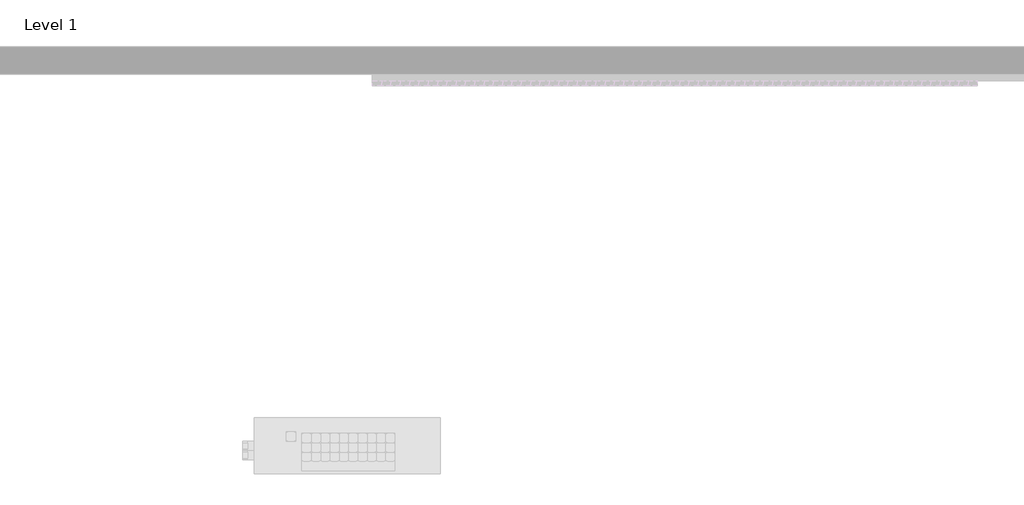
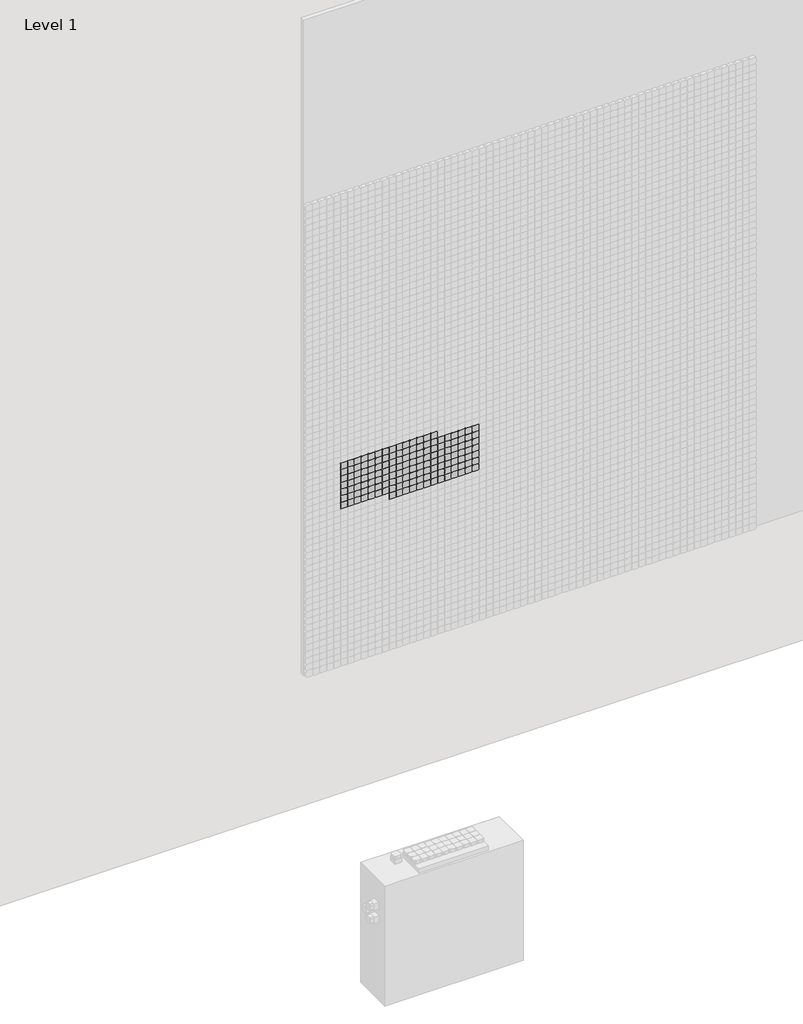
# One storey, part 17 of 71: 147 proxies.
"""IFC4 building model written with IfcOpenShell, lengths in millimetres."""

from ifc_helpers import new_model, si_unit, origin, place, context, project, spatial, transform, mapped, element, save
from components import generic_models_afde289c

model = new_model("IFC4")

# Units and contexts
model_context = context("Model", 3, world=origin())
ifc_project = project(units=[si_unit("LENGTHUNIT", "METRE", prefix="MILLI")], contexts=[model_context])

# Site, building, storey
site = spatial("IfcSite", under=ifc_project)
building = spatial("IfcBuilding", under=site)
storey = spatial("IfcBuildingStorey", under=building, Name="Level 1", Elevation=0.0)

# Proxies
placement = place(None, origin())
generic_models_shape = generic_models_afde289c(model_context)
element("IfcBuildingElementProxy", 1, Name="Pixel_M : Pixel_M", ObjectType="Pixel_M : Pixel_M", at=placement, inside=storey, context=model_context, shape_type="MappedRepresentation", body=[
    mapped(generic_models_shape, transform((5662.4280941, -75.0, 2516.3566215), x_axis=(1.0, 0.0, 0.0), y_axis=(0.0, 0.0, 1.0), z_axis=(0.0, -1.0, 0.0))),
])
element("IfcBuildingElementProxy", 2, Name="Pixel_M : Pixel_M", ObjectType="Pixel_M : Pixel_M", at=placement, inside=storey, context=model_context, shape_type="MappedRepresentation", body=[
    mapped(generic_models_shape, transform((5612.4280941, -75.0, 2516.3566215), x_axis=(1.0, 0.0, 0.0), y_axis=(0.0, 0.0, 1.0), z_axis=(0.0, -1.0, 0.0))),
])
element("IfcBuildingElementProxy", 3, Name="Pixel_M : Pixel_M", ObjectType="Pixel_M : Pixel_M", at=placement, inside=storey, context=model_context, shape_type="MappedRepresentation", body=[
    mapped(generic_models_shape, transform((5562.4280941, -75.0, 2516.3566215), x_axis=(1.0, 0.0, 0.0), y_axis=(0.0, 0.0, 1.0), z_axis=(0.0, -1.0, 0.0))),
])
element("IfcBuildingElementProxy", 4, Name="Pixel_M : Pixel_M", ObjectType="Pixel_M : Pixel_M", at=placement, inside=storey, context=model_context, shape_type="MappedRepresentation", body=[
    mapped(generic_models_shape, transform((5512.4280941, -75.0, 2516.3566215), x_axis=(1.0, 0.0, 0.0), y_axis=(0.0, 0.0, 1.0), z_axis=(0.0, -1.0, 0.0))),
])
element("IfcBuildingElementProxy", 5, Name="Pixel_M : Pixel_M", ObjectType="Pixel_M : Pixel_M", at=placement, inside=storey, context=model_context, shape_type="MappedRepresentation", body=[
    mapped(generic_models_shape, transform((5462.4280941, -75.0, 2516.3566215), x_axis=(1.0, 0.0, 0.0), y_axis=(0.0, 0.0, 1.0), z_axis=(0.0, -1.0, 0.0))),
])
element("IfcBuildingElementProxy", 6, Name="Pixel_M : Pixel_M", ObjectType="Pixel_M : Pixel_M", at=placement, inside=storey, context=model_context, shape_type="MappedRepresentation", body=[
    mapped(generic_models_shape, transform((5412.4280941, -75.0, 2516.3566215), x_axis=(1.0, 0.0, 0.0), y_axis=(0.0, 0.0, 1.0), z_axis=(0.0, -1.0, 0.0))),
])
element("IfcBuildingElementProxy", 7, Name="Pixel_M : Pixel_M", ObjectType="Pixel_M : Pixel_M", at=placement, inside=storey, context=model_context, shape_type="MappedRepresentation", body=[
    mapped(generic_models_shape, transform((5362.4280941, -75.0, 2516.3566215), x_axis=(1.0, 0.0, 0.0), y_axis=(0.0, 0.0, 1.0), z_axis=(0.0, -1.0, 0.0))),
])
element("IfcBuildingElementProxy", 8, Name="Pixel_M : Pixel_M", ObjectType="Pixel_M : Pixel_M", at=placement, inside=storey, context=model_context, shape_type="MappedRepresentation", body=[
    mapped(generic_models_shape, transform((5312.4280941, -75.0, 2516.3566215), x_axis=(1.0, 0.0, 0.0), y_axis=(0.0, 0.0, 1.0), z_axis=(0.0, -1.0, 0.0))),
])
element("IfcBuildingElementProxy", 9, Name="Pixel_M : Pixel_M", ObjectType="Pixel_M : Pixel_M", at=placement, inside=storey, context=model_context, shape_type="MappedRepresentation", body=[
    mapped(generic_models_shape, transform((5262.4280941, -75.0, 2516.3566215), x_axis=(1.0, 0.0, 0.0), y_axis=(0.0, 0.0, 1.0), z_axis=(0.0, -1.0, 0.0))),
])
element("IfcBuildingElementProxy", 10, Name="Pixel_M : Pixel_M", ObjectType="Pixel_M : Pixel_M", at=placement, inside=storey, context=model_context, shape_type="MappedRepresentation", body=[
    mapped(generic_models_shape, transform((5212.4280941, -75.0, 2516.3566215), x_axis=(1.0, 0.0, 0.0), y_axis=(0.0, 0.0, 1.0), z_axis=(0.0, -1.0, 0.0))),
])
element("IfcBuildingElementProxy", 11, Name="Pixel_M : Pixel_M", ObjectType="Pixel_M : Pixel_M", at=placement, inside=storey, context=model_context, shape_type="MappedRepresentation", body=[
    mapped(generic_models_shape, transform((5162.4280941, -75.0, 2516.3566215), x_axis=(1.0, 0.0, 0.0), y_axis=(0.0, 0.0, 1.0), z_axis=(0.0, -1.0, 0.0))),
])
element("IfcBuildingElementProxy", 12, Name="Pixel_M : Pixel_M", ObjectType="Pixel_M : Pixel_M", at=placement, inside=storey, context=model_context, shape_type="MappedRepresentation", body=[
    mapped(generic_models_shape, transform((5112.4280941, -75.0, 2516.3566215), x_axis=(1.0, 0.0, 0.0), y_axis=(0.0, 0.0, 1.0), z_axis=(0.0, -1.0, 0.0))),
])
element("IfcBuildingElementProxy", 13, Name="Pixel_M : Pixel_M", ObjectType="Pixel_M : Pixel_M", at=placement, inside=storey, context=model_context, shape_type="MappedRepresentation", body=[
    mapped(generic_models_shape, transform((5062.4280941, -75.0, 2516.3566215), x_axis=(1.0, 0.0, 0.0), y_axis=(0.0, 0.0, 1.0), z_axis=(0.0, -1.0, 0.0))),
])
element("IfcBuildingElementProxy", 14, Name="Pixel_M : Pixel_M", ObjectType="Pixel_M : Pixel_M", at=placement, inside=storey, context=model_context, shape_type="MappedRepresentation", body=[
    mapped(generic_models_shape, transform((5012.4280941, -75.0, 2516.3566215), x_axis=(1.0, 0.0, 0.0), y_axis=(0.0, 0.0, 1.0), z_axis=(0.0, -1.0, 0.0))),
])
element("IfcBuildingElementProxy", 15, Name="Pixel_M : Pixel_M", ObjectType="Pixel_M : Pixel_M", at=placement, inside=storey, context=model_context, shape_type="MappedRepresentation", body=[
    mapped(generic_models_shape, transform((5962.4280941, -75.0, 2466.3566215), x_axis=(1.0, 0.0, 0.0), y_axis=(0.0, 0.0, 1.0), z_axis=(0.0, -1.0, 0.0))),
])
element("IfcBuildingElementProxy", 16, Name="Pixel_M : Pixel_M", ObjectType="Pixel_M : Pixel_M", at=placement, inside=storey, context=model_context, shape_type="MappedRepresentation", body=[
    mapped(generic_models_shape, transform((5912.4280941, -75.0, 2466.3566215), x_axis=(1.0, 0.0, 0.0), y_axis=(0.0, 0.0, 1.0), z_axis=(0.0, -1.0, 0.0))),
])
element("IfcBuildingElementProxy", 17, Name="Pixel_M : Pixel_M", ObjectType="Pixel_M : Pixel_M", at=placement, inside=storey, context=model_context, shape_type="MappedRepresentation", body=[
    mapped(generic_models_shape, transform((5862.4280941, -75.0, 2466.3566215), x_axis=(1.0, 0.0, 0.0), y_axis=(0.0, 0.0, 1.0), z_axis=(0.0, -1.0, 0.0))),
])
element("IfcBuildingElementProxy", 18, Name="Pixel_M : Pixel_M", ObjectType="Pixel_M : Pixel_M", at=placement, inside=storey, context=model_context, shape_type="MappedRepresentation", body=[
    mapped(generic_models_shape, transform((5812.4280941, -75.0, 2466.3566215), x_axis=(1.0, 0.0, 0.0), y_axis=(0.0, 0.0, 1.0), z_axis=(0.0, -1.0, 0.0))),
])
element("IfcBuildingElementProxy", 19, Name="Pixel_M : Pixel_M", ObjectType="Pixel_M : Pixel_M", at=placement, inside=storey, context=model_context, shape_type="MappedRepresentation", body=[
    mapped(generic_models_shape, transform((5762.4280941, -75.0, 2466.3566215), x_axis=(1.0, 0.0, 0.0), y_axis=(0.0, 0.0, 1.0), z_axis=(0.0, -1.0, 0.0))),
])
element("IfcBuildingElementProxy", 20, Name="Pixel_M : Pixel_M", ObjectType="Pixel_M : Pixel_M", at=placement, inside=storey, context=model_context, shape_type="MappedRepresentation", body=[
    mapped(generic_models_shape, transform((5712.4280941, -75.0, 2466.3566215), x_axis=(1.0, 0.0, 0.0), y_axis=(0.0, 0.0, 1.0), z_axis=(0.0, -1.0, 0.0))),
])
element("IfcBuildingElementProxy", 21, Name="Pixel_M : Pixel_M", ObjectType="Pixel_M : Pixel_M", at=placement, inside=storey, context=model_context, shape_type="MappedRepresentation", body=[
    mapped(generic_models_shape, transform((5662.4280941, -75.0, 2466.3566215), x_axis=(1.0, 0.0, 0.0), y_axis=(0.0, 0.0, 1.0), z_axis=(0.0, -1.0, 0.0))),
])
element("IfcBuildingElementProxy", 22, Name="Pixel_M : Pixel_M", ObjectType="Pixel_M : Pixel_M", at=placement, inside=storey, context=model_context, shape_type="MappedRepresentation", body=[
    mapped(generic_models_shape, transform((5612.4280941, -75.0, 2466.3566215), x_axis=(1.0, 0.0, 0.0), y_axis=(0.0, 0.0, 1.0), z_axis=(0.0, -1.0, 0.0))),
])
element("IfcBuildingElementProxy", 23, Name="Pixel_M : Pixel_M", ObjectType="Pixel_M : Pixel_M", at=placement, inside=storey, context=model_context, shape_type="MappedRepresentation", body=[
    mapped(generic_models_shape, transform((5562.4280941, -75.0, 2466.3566215), x_axis=(1.0, 0.0, 0.0), y_axis=(0.0, 0.0, 1.0), z_axis=(0.0, -1.0, 0.0))),
])
element("IfcBuildingElementProxy", 24, Name="Pixel_M : Pixel_M", ObjectType="Pixel_M : Pixel_M", at=placement, inside=storey, context=model_context, shape_type="MappedRepresentation", body=[
    mapped(generic_models_shape, transform((5512.4280941, -75.0, 2466.3566215), x_axis=(1.0, 0.0, 0.0), y_axis=(0.0, 0.0, 1.0), z_axis=(0.0, -1.0, 0.0))),
])
element("IfcBuildingElementProxy", 25, Name="Pixel_M : Pixel_M", ObjectType="Pixel_M : Pixel_M", at=placement, inside=storey, context=model_context, shape_type="MappedRepresentation", body=[
    mapped(generic_models_shape, transform((5462.4280941, -75.0, 2466.3566215), x_axis=(1.0, 0.0, 0.0), y_axis=(0.0, 0.0, 1.0), z_axis=(0.0, -1.0, 0.0))),
])
element("IfcBuildingElementProxy", 26, Name="Pixel_M : Pixel_M", ObjectType="Pixel_M : Pixel_M", at=placement, inside=storey, context=model_context, shape_type="MappedRepresentation", body=[
    mapped(generic_models_shape, transform((5412.4280941, -75.0, 2466.3566215), x_axis=(1.0, 0.0, 0.0), y_axis=(0.0, 0.0, 1.0), z_axis=(0.0, -1.0, 0.0))),
])
element("IfcBuildingElementProxy", 27, Name="Pixel_M : Pixel_M", ObjectType="Pixel_M : Pixel_M", at=placement, inside=storey, context=model_context, shape_type="MappedRepresentation", body=[
    mapped(generic_models_shape, transform((5362.4280941, -75.0, 2466.3566215), x_axis=(1.0, 0.0, 0.0), y_axis=(0.0, 0.0, 1.0), z_axis=(0.0, -1.0, 0.0))),
])
element("IfcBuildingElementProxy", 28, Name="Pixel_M : Pixel_M", ObjectType="Pixel_M : Pixel_M", at=placement, inside=storey, context=model_context, shape_type="MappedRepresentation", body=[
    mapped(generic_models_shape, transform((5312.4280941, -75.0, 2466.3566215), x_axis=(1.0, 0.0, 0.0), y_axis=(0.0, 0.0, 1.0), z_axis=(0.0, -1.0, 0.0))),
])
element("IfcBuildingElementProxy", 29, Name="Pixel_M : Pixel_M", ObjectType="Pixel_M : Pixel_M", at=placement, inside=storey, context=model_context, shape_type="MappedRepresentation", body=[
    mapped(generic_models_shape, transform((5262.4280941, -75.0, 2466.3566215), x_axis=(1.0, 0.0, 0.0), y_axis=(0.0, 0.0, 1.0), z_axis=(0.0, -1.0, 0.0))),
])
element("IfcBuildingElementProxy", 30, Name="Pixel_M : Pixel_M", ObjectType="Pixel_M : Pixel_M", at=placement, inside=storey, context=model_context, shape_type="MappedRepresentation", body=[
    mapped(generic_models_shape, transform((5212.4280941, -75.0, 2466.3566215), x_axis=(1.0, 0.0, 0.0), y_axis=(0.0, 0.0, 1.0), z_axis=(0.0, -1.0, 0.0))),
])
element("IfcBuildingElementProxy", 31, Name="Pixel_M : Pixel_M", ObjectType="Pixel_M : Pixel_M", at=placement, inside=storey, context=model_context, shape_type="MappedRepresentation", body=[
    mapped(generic_models_shape, transform((5162.4280941, -75.0, 2466.3566215), x_axis=(1.0, 0.0, 0.0), y_axis=(0.0, 0.0, 1.0), z_axis=(0.0, -1.0, 0.0))),
])
element("IfcBuildingElementProxy", 32, Name="Pixel_M : Pixel_M", ObjectType="Pixel_M : Pixel_M", at=placement, inside=storey, context=model_context, shape_type="MappedRepresentation", body=[
    mapped(generic_models_shape, transform((5112.4280941, -75.0, 2466.3566215), x_axis=(1.0, 0.0, 0.0), y_axis=(0.0, 0.0, 1.0), z_axis=(0.0, -1.0, 0.0))),
])
element("IfcBuildingElementProxy", 33, Name="Pixel_M : Pixel_M", ObjectType="Pixel_M : Pixel_M", at=placement, inside=storey, context=model_context, shape_type="MappedRepresentation", body=[
    mapped(generic_models_shape, transform((5062.4280941, -75.0, 2466.3566215), x_axis=(1.0, 0.0, 0.0), y_axis=(0.0, 0.0, 1.0), z_axis=(0.0, -1.0, 0.0))),
])
element("IfcBuildingElementProxy", 34, Name="Pixel_M : Pixel_M", ObjectType="Pixel_M : Pixel_M", at=placement, inside=storey, context=model_context, shape_type="MappedRepresentation", body=[
    mapped(generic_models_shape, transform((5012.4280941, -75.0, 2466.3566215), x_axis=(1.0, 0.0, 0.0), y_axis=(0.0, 0.0, 1.0), z_axis=(0.0, -1.0, 0.0))),
])
element("IfcBuildingElementProxy", 35, Name="Pixel_M : Pixel_M", ObjectType="Pixel_M : Pixel_M", at=placement, inside=storey, context=model_context, shape_type="MappedRepresentation", body=[
    mapped(generic_models_shape, transform((5962.4280941, -75.0, 2416.3566215), x_axis=(1.0, 0.0, 0.0), y_axis=(0.0, 0.0, 1.0), z_axis=(0.0, -1.0, 0.0))),
])
element("IfcBuildingElementProxy", 36, Name="Pixel_M : Pixel_M", ObjectType="Pixel_M : Pixel_M", at=placement, inside=storey, context=model_context, shape_type="MappedRepresentation", body=[
    mapped(generic_models_shape, transform((5912.4280941, -75.0, 2416.3566215), x_axis=(1.0, 0.0, 0.0), y_axis=(0.0, 0.0, 1.0), z_axis=(0.0, -1.0, 0.0))),
])
element("IfcBuildingElementProxy", 37, Name="Pixel_M : Pixel_M", ObjectType="Pixel_M : Pixel_M", at=placement, inside=storey, context=model_context, shape_type="MappedRepresentation", body=[
    mapped(generic_models_shape, transform((5862.4280941, -75.0, 2416.3566215), x_axis=(1.0, 0.0, 0.0), y_axis=(0.0, 0.0, 1.0), z_axis=(0.0, -1.0, 0.0))),
])
element("IfcBuildingElementProxy", 38, Name="Pixel_M : Pixel_M", ObjectType="Pixel_M : Pixel_M", at=placement, inside=storey, context=model_context, shape_type="MappedRepresentation", body=[
    mapped(generic_models_shape, transform((5812.4280941, -75.0, 2416.3566215), x_axis=(1.0, 0.0, 0.0), y_axis=(0.0, 0.0, 1.0), z_axis=(0.0, -1.0, 0.0))),
])
element("IfcBuildingElementProxy", 39, Name="Pixel_M : Pixel_M", ObjectType="Pixel_M : Pixel_M", at=placement, inside=storey, context=model_context, shape_type="MappedRepresentation", body=[
    mapped(generic_models_shape, transform((5762.4280941, -75.0, 2416.3566215), x_axis=(1.0, 0.0, 0.0), y_axis=(0.0, 0.0, 1.0), z_axis=(0.0, -1.0, 0.0))),
])
element("IfcBuildingElementProxy", 40, Name="Pixel_M : Pixel_M", ObjectType="Pixel_M : Pixel_M", at=placement, inside=storey, context=model_context, shape_type="MappedRepresentation", body=[
    mapped(generic_models_shape, transform((5712.4280941, -75.0, 2416.3566215), x_axis=(1.0, 0.0, 0.0), y_axis=(0.0, 0.0, 1.0), z_axis=(0.0, -1.0, 0.0))),
])
element("IfcBuildingElementProxy", 41, Name="Pixel_M : Pixel_M", ObjectType="Pixel_M : Pixel_M", at=placement, inside=storey, context=model_context, shape_type="MappedRepresentation", body=[
    mapped(generic_models_shape, transform((5662.4280941, -75.0, 2416.3566215), x_axis=(1.0, 0.0, 0.0), y_axis=(0.0, 0.0, 1.0), z_axis=(0.0, -1.0, 0.0))),
])
element("IfcBuildingElementProxy", 42, Name="Pixel_M : Pixel_M", ObjectType="Pixel_M : Pixel_M", at=placement, inside=storey, context=model_context, shape_type="MappedRepresentation", body=[
    mapped(generic_models_shape, transform((5612.4280941, -75.0, 2416.3566215), x_axis=(1.0, 0.0, 0.0), y_axis=(0.0, 0.0, 1.0), z_axis=(0.0, -1.0, 0.0))),
])
element("IfcBuildingElementProxy", 43, Name="Pixel_M : Pixel_M", ObjectType="Pixel_M : Pixel_M", at=placement, inside=storey, context=model_context, shape_type="MappedRepresentation", body=[
    mapped(generic_models_shape, transform((5562.4280941, -75.0, 2416.3566215), x_axis=(1.0, 0.0, 0.0), y_axis=(0.0, 0.0, 1.0), z_axis=(0.0, -1.0, 0.0))),
])
element("IfcBuildingElementProxy", 44, Name="Pixel_M : Pixel_M", ObjectType="Pixel_M : Pixel_M", at=placement, inside=storey, context=model_context, shape_type="MappedRepresentation", body=[
    mapped(generic_models_shape, transform((5512.4280941, -75.0, 2416.3566215), x_axis=(1.0, 0.0, 0.0), y_axis=(0.0, 0.0, 1.0), z_axis=(0.0, -1.0, 0.0))),
])
element("IfcBuildingElementProxy", 45, Name="Pixel_M : Pixel_M", ObjectType="Pixel_M : Pixel_M", at=placement, inside=storey, context=model_context, shape_type="MappedRepresentation", body=[
    mapped(generic_models_shape, transform((5462.4280941, -75.0, 2416.3566215), x_axis=(1.0, 0.0, 0.0), y_axis=(0.0, 0.0, 1.0), z_axis=(0.0, -1.0, 0.0))),
])
element("IfcBuildingElementProxy", 46, Name="Pixel_M : Pixel_M", ObjectType="Pixel_M : Pixel_M", at=placement, inside=storey, context=model_context, shape_type="MappedRepresentation", body=[
    mapped(generic_models_shape, transform((5412.4280941, -75.0, 2416.3566215), x_axis=(1.0, 0.0, 0.0), y_axis=(0.0, 0.0, 1.0), z_axis=(0.0, -1.0, 0.0))),
])
element("IfcBuildingElementProxy", 47, Name="Pixel_M : Pixel_M", ObjectType="Pixel_M : Pixel_M", at=placement, inside=storey, context=model_context, shape_type="MappedRepresentation", body=[
    mapped(generic_models_shape, transform((5362.4280941, -75.0, 2416.3566215), x_axis=(1.0, 0.0, 0.0), y_axis=(0.0, 0.0, 1.0), z_axis=(0.0, -1.0, 0.0))),
])
element("IfcBuildingElementProxy", 48, Name="Pixel_M : Pixel_M", ObjectType="Pixel_M : Pixel_M", at=placement, inside=storey, context=model_context, shape_type="MappedRepresentation", body=[
    mapped(generic_models_shape, transform((5312.4280941, -75.0, 2416.3566215), x_axis=(1.0, 0.0, 0.0), y_axis=(0.0, 0.0, 1.0), z_axis=(0.0, -1.0, 0.0))),
])
element("IfcBuildingElementProxy", 49, Name="Pixel_M : Pixel_M", ObjectType="Pixel_M : Pixel_M", at=placement, inside=storey, context=model_context, shape_type="MappedRepresentation", body=[
    mapped(generic_models_shape, transform((5262.4280941, -75.0, 2416.3566215), x_axis=(1.0, 0.0, 0.0), y_axis=(0.0, 0.0, 1.0), z_axis=(0.0, -1.0, 0.0))),
])
element("IfcBuildingElementProxy", 50, Name="Pixel_M : Pixel_M", ObjectType="Pixel_M : Pixel_M", at=placement, inside=storey, context=model_context, shape_type="MappedRepresentation", body=[
    mapped(generic_models_shape, transform((5212.4280941, -75.0, 2416.3566215), x_axis=(1.0, 0.0, 0.0), y_axis=(0.0, 0.0, 1.0), z_axis=(0.0, -1.0, 0.0))),
])
element("IfcBuildingElementProxy", 51, Name="Pixel_M : Pixel_M", ObjectType="Pixel_M : Pixel_M", at=placement, inside=storey, context=model_context, shape_type="MappedRepresentation", body=[
    mapped(generic_models_shape, transform((5162.4280941, -75.0, 2416.3566215), x_axis=(1.0, 0.0, 0.0), y_axis=(0.0, 0.0, 1.0), z_axis=(0.0, -1.0, 0.0))),
])
element("IfcBuildingElementProxy", 52, Name="Pixel_M : Pixel_M", ObjectType="Pixel_M : Pixel_M", at=placement, inside=storey, context=model_context, shape_type="MappedRepresentation", body=[
    mapped(generic_models_shape, transform((5112.4280941, -75.0, 2416.3566215), x_axis=(1.0, 0.0, 0.0), y_axis=(0.0, 0.0, 1.0), z_axis=(0.0, -1.0, 0.0))),
])
element("IfcBuildingElementProxy", 53, Name="Pixel_M : Pixel_M", ObjectType="Pixel_M : Pixel_M", at=placement, inside=storey, context=model_context, shape_type="MappedRepresentation", body=[
    mapped(generic_models_shape, transform((5062.4280941, -75.0, 2416.3566215), x_axis=(1.0, 0.0, 0.0), y_axis=(0.0, 0.0, 1.0), z_axis=(0.0, -1.0, 0.0))),
])
element("IfcBuildingElementProxy", 54, Name="Pixel_M : Pixel_M", ObjectType="Pixel_M : Pixel_M", at=placement, inside=storey, context=model_context, shape_type="MappedRepresentation", body=[
    mapped(generic_models_shape, transform((5012.4280941, -75.0, 2416.3566215), x_axis=(1.0, 0.0, 0.0), y_axis=(0.0, 0.0, 1.0), z_axis=(0.0, -1.0, 0.0))),
])
element("IfcBuildingElementProxy", 55, Name="Pixel_M : Pixel_M", ObjectType="Pixel_M : Pixel_M", at=placement, inside=storey, context=model_context, shape_type="MappedRepresentation", body=[
    mapped(generic_models_shape, transform((5962.4280941, -75.0, 2366.3566215), x_axis=(1.0, 0.0, 0.0), y_axis=(0.0, 0.0, 1.0), z_axis=(0.0, -1.0, 0.0))),
])
element("IfcBuildingElementProxy", 56, Name="Pixel_M : Pixel_M", ObjectType="Pixel_M : Pixel_M", at=placement, inside=storey, context=model_context, shape_type="MappedRepresentation", body=[
    mapped(generic_models_shape, transform((5912.4280941, -75.0, 2366.3566215), x_axis=(1.0, 0.0, 0.0), y_axis=(0.0, 0.0, 1.0), z_axis=(0.0, -1.0, 0.0))),
])
element("IfcBuildingElementProxy", 57, Name="Pixel_M : Pixel_M", ObjectType="Pixel_M : Pixel_M", at=placement, inside=storey, context=model_context, shape_type="MappedRepresentation", body=[
    mapped(generic_models_shape, transform((5862.4280941, -75.0, 2366.3566215), x_axis=(1.0, 0.0, 0.0), y_axis=(0.0, 0.0, 1.0), z_axis=(0.0, -1.0, 0.0))),
])
element("IfcBuildingElementProxy", 58, Name="Pixel_M : Pixel_M", ObjectType="Pixel_M : Pixel_M", at=placement, inside=storey, context=model_context, shape_type="MappedRepresentation", body=[
    mapped(generic_models_shape, transform((5812.4280941, -75.0, 2366.3566215), x_axis=(1.0, 0.0, 0.0), y_axis=(0.0, 0.0, 1.0), z_axis=(0.0, -1.0, 0.0))),
])
element("IfcBuildingElementProxy", 59, Name="Pixel_M : Pixel_M", ObjectType="Pixel_M : Pixel_M", at=placement, inside=storey, context=model_context, shape_type="MappedRepresentation", body=[
    mapped(generic_models_shape, transform((5762.4280941, -75.0, 2366.3566215), x_axis=(1.0, 0.0, 0.0), y_axis=(0.0, 0.0, 1.0), z_axis=(0.0, -1.0, 0.0))),
])
element("IfcBuildingElementProxy", 60, Name="Pixel_M : Pixel_M", ObjectType="Pixel_M : Pixel_M", at=placement, inside=storey, context=model_context, shape_type="MappedRepresentation", body=[
    mapped(generic_models_shape, transform((5712.4280941, -75.0, 2366.3566215), x_axis=(1.0, 0.0, 0.0), y_axis=(0.0, 0.0, 1.0), z_axis=(0.0, -1.0, 0.0))),
])
element("IfcBuildingElementProxy", 61, Name="Pixel_M : Pixel_M", ObjectType="Pixel_M : Pixel_M", at=placement, inside=storey, context=model_context, shape_type="MappedRepresentation", body=[
    mapped(generic_models_shape, transform((5662.4280941, -75.0, 2366.3566215), x_axis=(1.0, 0.0, 0.0), y_axis=(0.0, 0.0, 1.0), z_axis=(0.0, -1.0, 0.0))),
])
element("IfcBuildingElementProxy", 62, Name="Pixel_M : Pixel_M", ObjectType="Pixel_M : Pixel_M", at=placement, inside=storey, context=model_context, shape_type="MappedRepresentation", body=[
    mapped(generic_models_shape, transform((5612.4280941, -75.0, 2366.3566215), x_axis=(1.0, 0.0, 0.0), y_axis=(0.0, 0.0, 1.0), z_axis=(0.0, -1.0, 0.0))),
])
element("IfcBuildingElementProxy", 63, Name="Pixel_M : Pixel_M", ObjectType="Pixel_M : Pixel_M", at=placement, inside=storey, context=model_context, shape_type="MappedRepresentation", body=[
    mapped(generic_models_shape, transform((5562.4280941, -75.0, 2366.3566215), x_axis=(1.0, 0.0, 0.0), y_axis=(0.0, 0.0, 1.0), z_axis=(0.0, -1.0, 0.0))),
])
element("IfcBuildingElementProxy", 64, Name="Pixel_M : Pixel_M", ObjectType="Pixel_M : Pixel_M", at=placement, inside=storey, context=model_context, shape_type="MappedRepresentation", body=[
    mapped(generic_models_shape, transform((5512.4280941, -75.0, 2366.3566215), x_axis=(1.0, 0.0, 0.0), y_axis=(0.0, 0.0, 1.0), z_axis=(0.0, -1.0, 0.0))),
])
element("IfcBuildingElementProxy", 65, Name="Pixel_M : Pixel_M", ObjectType="Pixel_M : Pixel_M", at=placement, inside=storey, context=model_context, shape_type="MappedRepresentation", body=[
    mapped(generic_models_shape, transform((5462.4280941, -75.0, 2366.3566215), x_axis=(1.0, 0.0, 0.0), y_axis=(0.0, 0.0, 1.0), z_axis=(0.0, -1.0, 0.0))),
])
element("IfcBuildingElementProxy", 66, Name="Pixel_M : Pixel_M", ObjectType="Pixel_M : Pixel_M", at=placement, inside=storey, context=model_context, shape_type="MappedRepresentation", body=[
    mapped(generic_models_shape, transform((5412.4280941, -75.0, 2366.3566215), x_axis=(1.0, 0.0, 0.0), y_axis=(0.0, 0.0, 1.0), z_axis=(0.0, -1.0, 0.0))),
])
element("IfcBuildingElementProxy", 67, Name="Pixel_M : Pixel_M", ObjectType="Pixel_M : Pixel_M", at=placement, inside=storey, context=model_context, shape_type="MappedRepresentation", body=[
    mapped(generic_models_shape, transform((5362.4280941, -75.0, 2366.3566215), x_axis=(1.0, 0.0, 0.0), y_axis=(0.0, 0.0, 1.0), z_axis=(0.0, -1.0, 0.0))),
])
element("IfcBuildingElementProxy", 68, Name="Pixel_M : Pixel_M", ObjectType="Pixel_M : Pixel_M", at=placement, inside=storey, context=model_context, shape_type="MappedRepresentation", body=[
    mapped(generic_models_shape, transform((5312.4280941, -75.0, 2366.3566215), x_axis=(1.0, 0.0, 0.0), y_axis=(0.0, 0.0, 1.0), z_axis=(0.0, -1.0, 0.0))),
])
element("IfcBuildingElementProxy", 69, Name="Pixel_M : Pixel_M", ObjectType="Pixel_M : Pixel_M", at=placement, inside=storey, context=model_context, shape_type="MappedRepresentation", body=[
    mapped(generic_models_shape, transform((5262.4280941, -75.0, 2366.3566215), x_axis=(1.0, 0.0, 0.0), y_axis=(0.0, 0.0, 1.0), z_axis=(0.0, -1.0, 0.0))),
])
element("IfcBuildingElementProxy", 70, Name="Pixel_M : Pixel_M", ObjectType="Pixel_M : Pixel_M", at=placement, inside=storey, context=model_context, shape_type="MappedRepresentation", body=[
    mapped(generic_models_shape, transform((5212.4280941, -75.0, 2366.3566215), x_axis=(1.0, 0.0, 0.0), y_axis=(0.0, 0.0, 1.0), z_axis=(0.0, -1.0, 0.0))),
])
element("IfcBuildingElementProxy", 71, Name="Pixel_M : Pixel_M", ObjectType="Pixel_M : Pixel_M", at=placement, inside=storey, context=model_context, shape_type="MappedRepresentation", body=[
    mapped(generic_models_shape, transform((5162.4280941, -75.0, 2366.3566215), x_axis=(1.0, 0.0, 0.0), y_axis=(0.0, 0.0, 1.0), z_axis=(0.0, -1.0, 0.0))),
])
element("IfcBuildingElementProxy", 72, Name="Pixel_M : Pixel_M", ObjectType="Pixel_M : Pixel_M", at=placement, inside=storey, context=model_context, shape_type="MappedRepresentation", body=[
    mapped(generic_models_shape, transform((5112.4280941, -75.0, 2366.3566215), x_axis=(1.0, 0.0, 0.0), y_axis=(0.0, 0.0, 1.0), z_axis=(0.0, -1.0, 0.0))),
])
element("IfcBuildingElementProxy", 73, Name="Pixel_M : Pixel_M", ObjectType="Pixel_M : Pixel_M", at=placement, inside=storey, context=model_context, shape_type="MappedRepresentation", body=[
    mapped(generic_models_shape, transform((5062.4280941, -75.0, 2366.3566215), x_axis=(1.0, 0.0, 0.0), y_axis=(0.0, 0.0, 1.0), z_axis=(0.0, -1.0, 0.0))),
])
element("IfcBuildingElementProxy", 74, Name="Pixel_M : Pixel_M", ObjectType="Pixel_M : Pixel_M", at=placement, inside=storey, context=model_context, shape_type="MappedRepresentation", body=[
    mapped(generic_models_shape, transform((5012.4280941, -75.0, 2366.3566215), x_axis=(1.0, 0.0, 0.0), y_axis=(0.0, 0.0, 1.0), z_axis=(0.0, -1.0, 0.0))),
])
element("IfcBuildingElementProxy", 75, Name="Pixel_M : Pixel_M", ObjectType="Pixel_M : Pixel_M", at=placement, inside=storey, context=model_context, shape_type="MappedRepresentation", body=[
    mapped(generic_models_shape, transform((5962.4280941, -75.0, 2316.3566215), x_axis=(1.0, 0.0, 0.0), y_axis=(0.0, 0.0, 1.0), z_axis=(0.0, -1.0, 0.0))),
])
element("IfcBuildingElementProxy", 76, Name="Pixel_M : Pixel_M", ObjectType="Pixel_M : Pixel_M", at=placement, inside=storey, context=model_context, shape_type="MappedRepresentation", body=[
    mapped(generic_models_shape, transform((5912.4280941, -75.0, 2316.3566215), x_axis=(1.0, 0.0, 0.0), y_axis=(0.0, 0.0, 1.0), z_axis=(0.0, -1.0, 0.0))),
])
element("IfcBuildingElementProxy", 77, Name="Pixel_M : Pixel_M", ObjectType="Pixel_M : Pixel_M", at=placement, inside=storey, context=model_context, shape_type="MappedRepresentation", body=[
    mapped(generic_models_shape, transform((5862.4280941, -75.0, 2316.3566215), x_axis=(1.0, 0.0, 0.0), y_axis=(0.0, 0.0, 1.0), z_axis=(0.0, -1.0, 0.0))),
])
element("IfcBuildingElementProxy", 78, Name="Pixel_M : Pixel_M", ObjectType="Pixel_M : Pixel_M", at=placement, inside=storey, context=model_context, shape_type="MappedRepresentation", body=[
    mapped(generic_models_shape, transform((5812.4280941, -75.0, 2316.3566215), x_axis=(1.0, 0.0, 0.0), y_axis=(0.0, 0.0, 1.0), z_axis=(0.0, -1.0, 0.0))),
])
element("IfcBuildingElementProxy", 79, Name="Pixel_M : Pixel_M", ObjectType="Pixel_M : Pixel_M", at=placement, inside=storey, context=model_context, shape_type="MappedRepresentation", body=[
    mapped(generic_models_shape, transform((5762.4280941, -75.0, 2316.3566215), x_axis=(1.0, 0.0, 0.0), y_axis=(0.0, 0.0, 1.0), z_axis=(0.0, -1.0, 0.0))),
])
element("IfcBuildingElementProxy", 80, Name="Pixel_M : Pixel_M", ObjectType="Pixel_M : Pixel_M", at=placement, inside=storey, context=model_context, shape_type="MappedRepresentation", body=[
    mapped(generic_models_shape, transform((5712.4280941, -75.0, 2316.3566215), x_axis=(1.0, 0.0, 0.0), y_axis=(0.0, 0.0, 1.0), z_axis=(0.0, -1.0, 0.0))),
])
element("IfcBuildingElementProxy", 81, Name="Pixel_M : Pixel_M", ObjectType="Pixel_M : Pixel_M", at=placement, inside=storey, context=model_context, shape_type="MappedRepresentation", body=[
    mapped(generic_models_shape, transform((5662.4280941, -75.0, 2316.3566215), x_axis=(1.0, 0.0, 0.0), y_axis=(0.0, 0.0, 1.0), z_axis=(0.0, -1.0, 0.0))),
])
element("IfcBuildingElementProxy", 82, Name="Pixel_M : Pixel_M", ObjectType="Pixel_M : Pixel_M", at=placement, inside=storey, context=model_context, shape_type="MappedRepresentation", body=[
    mapped(generic_models_shape, transform((5612.4280941, -75.0, 2316.3566215), x_axis=(1.0, 0.0, 0.0), y_axis=(0.0, 0.0, 1.0), z_axis=(0.0, -1.0, 0.0))),
])
element("IfcBuildingElementProxy", 83, Name="Pixel_M : Pixel_M", ObjectType="Pixel_M : Pixel_M", at=placement, inside=storey, context=model_context, shape_type="MappedRepresentation", body=[
    mapped(generic_models_shape, transform((5562.4280941, -75.0, 2316.3566215), x_axis=(1.0, 0.0, 0.0), y_axis=(0.0, 0.0, 1.0), z_axis=(0.0, -1.0, 0.0))),
])
element("IfcBuildingElementProxy", 84, Name="Pixel_M : Pixel_M", ObjectType="Pixel_M : Pixel_M", at=placement, inside=storey, context=model_context, shape_type="MappedRepresentation", body=[
    mapped(generic_models_shape, transform((5512.4280941, -75.0, 2316.3566215), x_axis=(1.0, 0.0, 0.0), y_axis=(0.0, 0.0, 1.0), z_axis=(0.0, -1.0, 0.0))),
])
element("IfcBuildingElementProxy", 85, Name="Pixel_M : Pixel_M", ObjectType="Pixel_M : Pixel_M", at=placement, inside=storey, context=model_context, shape_type="MappedRepresentation", body=[
    mapped(generic_models_shape, transform((5462.4280941, -75.0, 2316.3566215), x_axis=(1.0, 0.0, 0.0), y_axis=(0.0, 0.0, 1.0), z_axis=(0.0, -1.0, 0.0))),
])
element("IfcBuildingElementProxy", 86, Name="Pixel_M : Pixel_M", ObjectType="Pixel_M : Pixel_M", at=placement, inside=storey, context=model_context, shape_type="MappedRepresentation", body=[
    mapped(generic_models_shape, transform((5412.4280941, -75.0, 2316.3566215), x_axis=(1.0, 0.0, 0.0), y_axis=(0.0, 0.0, 1.0), z_axis=(0.0, -1.0, 0.0))),
])
element("IfcBuildingElementProxy", 87, Name="Pixel_M : Pixel_M", ObjectType="Pixel_M : Pixel_M", at=placement, inside=storey, context=model_context, shape_type="MappedRepresentation", body=[
    mapped(generic_models_shape, transform((5362.4280941, -75.0, 2316.3566215), x_axis=(1.0, 0.0, 0.0), y_axis=(0.0, 0.0, 1.0), z_axis=(0.0, -1.0, 0.0))),
])
element("IfcBuildingElementProxy", 88, Name="Pixel_M : Pixel_M", ObjectType="Pixel_M : Pixel_M", at=placement, inside=storey, context=model_context, shape_type="MappedRepresentation", body=[
    mapped(generic_models_shape, transform((5312.4280941, -75.0, 2316.3566215), x_axis=(1.0, 0.0, 0.0), y_axis=(0.0, 0.0, 1.0), z_axis=(0.0, -1.0, 0.0))),
])
element("IfcBuildingElementProxy", 89, Name="Pixel_M : Pixel_M", ObjectType="Pixel_M : Pixel_M", at=placement, inside=storey, context=model_context, shape_type="MappedRepresentation", body=[
    mapped(generic_models_shape, transform((5262.4280941, -75.0, 2316.3566215), x_axis=(1.0, 0.0, 0.0), y_axis=(0.0, 0.0, 1.0), z_axis=(0.0, -1.0, 0.0))),
])
element("IfcBuildingElementProxy", 90, Name="Pixel_M : Pixel_M", ObjectType="Pixel_M : Pixel_M", at=placement, inside=storey, context=model_context, shape_type="MappedRepresentation", body=[
    mapped(generic_models_shape, transform((5212.4280941, -75.0, 2316.3566215), x_axis=(1.0, 0.0, 0.0), y_axis=(0.0, 0.0, 1.0), z_axis=(0.0, -1.0, 0.0))),
])
element("IfcBuildingElementProxy", 91, Name="Pixel_M : Pixel_M", ObjectType="Pixel_M : Pixel_M", at=placement, inside=storey, context=model_context, shape_type="MappedRepresentation", body=[
    mapped(generic_models_shape, transform((5162.4280941, -75.0, 2316.3566215), x_axis=(1.0, 0.0, 0.0), y_axis=(0.0, 0.0, 1.0), z_axis=(0.0, -1.0, 0.0))),
])
element("IfcBuildingElementProxy", 92, Name="Pixel_M : Pixel_M", ObjectType="Pixel_M : Pixel_M", at=placement, inside=storey, context=model_context, shape_type="MappedRepresentation", body=[
    mapped(generic_models_shape, transform((5112.4280941, -75.0, 2316.3566215), x_axis=(1.0, 0.0, 0.0), y_axis=(0.0, 0.0, 1.0), z_axis=(0.0, -1.0, 0.0))),
])
element("IfcBuildingElementProxy", 93, Name="Pixel_M : Pixel_M", ObjectType="Pixel_M : Pixel_M", at=placement, inside=storey, context=model_context, shape_type="MappedRepresentation", body=[
    mapped(generic_models_shape, transform((5062.4280941, -75.0, 2316.3566215), x_axis=(1.0, 0.0, 0.0), y_axis=(0.0, 0.0, 1.0), z_axis=(0.0, -1.0, 0.0))),
])
element("IfcBuildingElementProxy", 94, Name="Pixel_M : Pixel_M", ObjectType="Pixel_M : Pixel_M", at=placement, inside=storey, context=model_context, shape_type="MappedRepresentation", body=[
    mapped(generic_models_shape, transform((5012.4280941, -75.0, 2316.3566215), x_axis=(1.0, 0.0, 0.0), y_axis=(0.0, 0.0, 1.0), z_axis=(0.0, -1.0, 0.0))),
])
element("IfcBuildingElementProxy", 95, Name="Pixel_M : Pixel_M", ObjectType="Pixel_M : Pixel_M", at=placement, inside=storey, context=model_context, shape_type="MappedRepresentation", body=[
    mapped(generic_models_shape, transform((5962.4280941, -75.0, 2266.3566215), x_axis=(1.0, 0.0, 0.0), y_axis=(0.0, 0.0, 1.0), z_axis=(0.0, -1.0, 0.0))),
])
element("IfcBuildingElementProxy", 96, Name="Pixel_M : Pixel_M", ObjectType="Pixel_M : Pixel_M", at=placement, inside=storey, context=model_context, shape_type="MappedRepresentation", body=[
    mapped(generic_models_shape, transform((5912.4280941, -75.0, 2266.3566215), x_axis=(1.0, 0.0, 0.0), y_axis=(0.0, 0.0, 1.0), z_axis=(0.0, -1.0, 0.0))),
])
element("IfcBuildingElementProxy", 97, Name="Pixel_M : Pixel_M", ObjectType="Pixel_M : Pixel_M", at=placement, inside=storey, context=model_context, shape_type="MappedRepresentation", body=[
    mapped(generic_models_shape, transform((5862.4280941, -75.0, 2266.3566215), x_axis=(1.0, 0.0, 0.0), y_axis=(0.0, 0.0, 1.0), z_axis=(0.0, -1.0, 0.0))),
])
element("IfcBuildingElementProxy", 98, Name="Pixel_M : Pixel_M", ObjectType="Pixel_M : Pixel_M", at=placement, inside=storey, context=model_context, shape_type="MappedRepresentation", body=[
    mapped(generic_models_shape, transform((5812.4280941, -75.0, 2266.3566215), x_axis=(1.0, 0.0, 0.0), y_axis=(0.0, 0.0, 1.0), z_axis=(0.0, -1.0, 0.0))),
])
element("IfcBuildingElementProxy", 99, Name="Pixel_M : Pixel_M", ObjectType="Pixel_M : Pixel_M", at=placement, inside=storey, context=model_context, shape_type="MappedRepresentation", body=[
    mapped(generic_models_shape, transform((5762.4280941, -75.0, 2266.3566215), x_axis=(1.0, 0.0, 0.0), y_axis=(0.0, 0.0, 1.0), z_axis=(0.0, -1.0, 0.0))),
])
element("IfcBuildingElementProxy", 100, Name="Pixel_M : Pixel_M", ObjectType="Pixel_M : Pixel_M", at=placement, inside=storey, context=model_context, shape_type="MappedRepresentation", body=[
    mapped(generic_models_shape, transform((5712.4280941, -75.0, 2266.3566215), x_axis=(1.0, 0.0, 0.0), y_axis=(0.0, 0.0, 1.0), z_axis=(0.0, -1.0, 0.0))),
])
element("IfcBuildingElementProxy", 101, Name="Pixel_M : Pixel_M", ObjectType="Pixel_M : Pixel_M", at=placement, inside=storey, context=model_context, shape_type="MappedRepresentation", body=[
    mapped(generic_models_shape, transform((5662.4280941, -75.0, 2266.3566215), x_axis=(1.0, 0.0, 0.0), y_axis=(0.0, 0.0, 1.0), z_axis=(0.0, -1.0, 0.0))),
])
element("IfcBuildingElementProxy", 102, Name="Pixel_M : Pixel_M", ObjectType="Pixel_M : Pixel_M", at=placement, inside=storey, context=model_context, shape_type="MappedRepresentation", body=[
    mapped(generic_models_shape, transform((5612.4280941, -75.0, 2266.3566215), x_axis=(1.0, 0.0, 0.0), y_axis=(0.0, 0.0, 1.0), z_axis=(0.0, -1.0, 0.0))),
])
element("IfcBuildingElementProxy", 103, Name="Pixel_M : Pixel_M", ObjectType="Pixel_M : Pixel_M", at=placement, inside=storey, context=model_context, shape_type="MappedRepresentation", body=[
    mapped(generic_models_shape, transform((5562.4280941, -75.0, 2266.3566215), x_axis=(1.0, 0.0, 0.0), y_axis=(0.0, 0.0, 1.0), z_axis=(0.0, -1.0, 0.0))),
])
element("IfcBuildingElementProxy", 104, Name="Pixel_M : Pixel_M", ObjectType="Pixel_M : Pixel_M", at=placement, inside=storey, context=model_context, shape_type="MappedRepresentation", body=[
    mapped(generic_models_shape, transform((5512.4280941, -75.0, 2266.3566215), x_axis=(1.0, 0.0, 0.0), y_axis=(0.0, 0.0, 1.0), z_axis=(0.0, -1.0, 0.0))),
])
element("IfcBuildingElementProxy", 105, Name="Pixel_M : Pixel_M", ObjectType="Pixel_M : Pixel_M", at=placement, inside=storey, context=model_context, shape_type="MappedRepresentation", body=[
    mapped(generic_models_shape, transform((5462.4280941, -75.0, 2266.3566215), x_axis=(1.0, 0.0, 0.0), y_axis=(0.0, 0.0, 1.0), z_axis=(0.0, -1.0, 0.0))),
])
element("IfcBuildingElementProxy", 106, Name="Pixel_M : Pixel_M", ObjectType="Pixel_M : Pixel_M", at=placement, inside=storey, context=model_context, shape_type="MappedRepresentation", body=[
    mapped(generic_models_shape, transform((5412.4280941, -75.0, 2266.3566215), x_axis=(1.0, 0.0, 0.0), y_axis=(0.0, 0.0, 1.0), z_axis=(0.0, -1.0, 0.0))),
])
element("IfcBuildingElementProxy", 107, Name="Pixel_M : Pixel_M", ObjectType="Pixel_M : Pixel_M", at=placement, inside=storey, context=model_context, shape_type="MappedRepresentation", body=[
    mapped(generic_models_shape, transform((5362.4280941, -75.0, 2266.3566215), x_axis=(1.0, 0.0, 0.0), y_axis=(0.0, 0.0, 1.0), z_axis=(0.0, -1.0, 0.0))),
])
element("IfcBuildingElementProxy", 108, Name="Pixel_M : Pixel_M", ObjectType="Pixel_M : Pixel_M", at=placement, inside=storey, context=model_context, shape_type="MappedRepresentation", body=[
    mapped(generic_models_shape, transform((5312.4280941, -75.0, 2266.3566215), x_axis=(1.0, 0.0, 0.0), y_axis=(0.0, 0.0, 1.0), z_axis=(0.0, -1.0, 0.0))),
])
element("IfcBuildingElementProxy", 109, Name="Pixel_M : Pixel_M", ObjectType="Pixel_M : Pixel_M", at=placement, inside=storey, context=model_context, shape_type="MappedRepresentation", body=[
    mapped(generic_models_shape, transform((5262.4280941, -75.0, 2266.3566215), x_axis=(1.0, 0.0, 0.0), y_axis=(0.0, 0.0, 1.0), z_axis=(0.0, -1.0, 0.0))),
])
element("IfcBuildingElementProxy", 110, Name="Pixel_M : Pixel_M", ObjectType="Pixel_M : Pixel_M", at=placement, inside=storey, context=model_context, shape_type="MappedRepresentation", body=[
    mapped(generic_models_shape, transform((5212.4280941, -75.0, 2266.3566215), x_axis=(1.0, 0.0, 0.0), y_axis=(0.0, 0.0, 1.0), z_axis=(0.0, -1.0, 0.0))),
])
element("IfcBuildingElementProxy", 111, Name="Pixel_M : Pixel_M", ObjectType="Pixel_M : Pixel_M", at=placement, inside=storey, context=model_context, shape_type="MappedRepresentation", body=[
    mapped(generic_models_shape, transform((5162.4280941, -75.0, 2266.3566215), x_axis=(1.0, 0.0, 0.0), y_axis=(0.0, 0.0, 1.0), z_axis=(0.0, -1.0, 0.0))),
])
element("IfcBuildingElementProxy", 112, Name="Pixel_M : Pixel_M", ObjectType="Pixel_M : Pixel_M", at=placement, inside=storey, context=model_context, shape_type="MappedRepresentation", body=[
    mapped(generic_models_shape, transform((5112.4280941, -75.0, 2266.3566215), x_axis=(1.0, 0.0, 0.0), y_axis=(0.0, 0.0, 1.0), z_axis=(0.0, -1.0, 0.0))),
])
element("IfcBuildingElementProxy", 113, Name="Pixel_M : Pixel_M", ObjectType="Pixel_M : Pixel_M", at=placement, inside=storey, context=model_context, shape_type="MappedRepresentation", body=[
    mapped(generic_models_shape, transform((5062.4280941, -75.0, 2266.3566215), x_axis=(1.0, 0.0, 0.0), y_axis=(0.0, 0.0, 1.0), z_axis=(0.0, -1.0, 0.0))),
])
element("IfcBuildingElementProxy", 114, Name="Pixel_M : Pixel_M", ObjectType="Pixel_M : Pixel_M", at=placement, inside=storey, context=model_context, shape_type="MappedRepresentation", body=[
    mapped(generic_models_shape, transform((5012.4280941, -75.0, 2266.3566215), x_axis=(1.0, 0.0, 0.0), y_axis=(0.0, 0.0, 1.0), z_axis=(0.0, -1.0, 0.0))),
])
element("IfcBuildingElementProxy", 115, Name="Pixel_M : Pixel_M", ObjectType="Pixel_M : Pixel_M", at=placement, inside=storey, context=model_context, shape_type="MappedRepresentation", body=[
    mapped(generic_models_shape, transform((5962.4280941, -75.0, 2216.3566215), x_axis=(1.0, 0.0, 0.0), y_axis=(0.0, 0.0, 1.0), z_axis=(0.0, -1.0, 0.0))),
])
element("IfcBuildingElementProxy", 116, Name="Pixel_M : Pixel_M", ObjectType="Pixel_M : Pixel_M", at=placement, inside=storey, context=model_context, shape_type="MappedRepresentation", body=[
    mapped(generic_models_shape, transform((5912.4280941, -75.0, 2216.3566215), x_axis=(1.0, 0.0, 0.0), y_axis=(0.0, 0.0, 1.0), z_axis=(0.0, -1.0, 0.0))),
])
element("IfcBuildingElementProxy", 117, Name="Pixel_M : Pixel_M", ObjectType="Pixel_M : Pixel_M", at=placement, inside=storey, context=model_context, shape_type="MappedRepresentation", body=[
    mapped(generic_models_shape, transform((5862.4280941, -75.0, 2216.3566215), x_axis=(1.0, 0.0, 0.0), y_axis=(0.0, 0.0, 1.0), z_axis=(0.0, -1.0, 0.0))),
])
element("IfcBuildingElementProxy", 118, Name="Pixel_M : Pixel_M", ObjectType="Pixel_M : Pixel_M", at=placement, inside=storey, context=model_context, shape_type="MappedRepresentation", body=[
    mapped(generic_models_shape, transform((5812.4280941, -75.0, 2216.3566215), x_axis=(1.0, 0.0, 0.0), y_axis=(0.0, 0.0, 1.0), z_axis=(0.0, -1.0, 0.0))),
])
element("IfcBuildingElementProxy", 119, Name="Pixel_M : Pixel_M", ObjectType="Pixel_M : Pixel_M", at=placement, inside=storey, context=model_context, shape_type="MappedRepresentation", body=[
    mapped(generic_models_shape, transform((5762.4280941, -75.0, 2216.3566215), x_axis=(1.0, 0.0, 0.0), y_axis=(0.0, 0.0, 1.0), z_axis=(0.0, -1.0, 0.0))),
])
element("IfcBuildingElementProxy", 120, Name="Pixel_M : Pixel_M", ObjectType="Pixel_M : Pixel_M", at=placement, inside=storey, context=model_context, shape_type="MappedRepresentation", body=[
    mapped(generic_models_shape, transform((5712.4280941, -75.0, 2216.3566215), x_axis=(1.0, 0.0, 0.0), y_axis=(0.0, 0.0, 1.0), z_axis=(0.0, -1.0, 0.0))),
])
element("IfcBuildingElementProxy", 121, Name="Pixel_M : Pixel_M", ObjectType="Pixel_M : Pixel_M", at=placement, inside=storey, context=model_context, shape_type="MappedRepresentation", body=[
    mapped(generic_models_shape, transform((5662.4280941, -75.0, 2216.3566215), x_axis=(1.0, 0.0, 0.0), y_axis=(0.0, 0.0, 1.0), z_axis=(0.0, -1.0, 0.0))),
])
element("IfcBuildingElementProxy", 122, Name="Pixel_M : Pixel_M", ObjectType="Pixel_M : Pixel_M", at=placement, inside=storey, context=model_context, shape_type="MappedRepresentation", body=[
    mapped(generic_models_shape, transform((5612.4280941, -75.0, 2216.3566215), x_axis=(1.0, 0.0, 0.0), y_axis=(0.0, 0.0, 1.0), z_axis=(0.0, -1.0, 0.0))),
])
element("IfcBuildingElementProxy", 123, Name="Pixel_M : Pixel_M", ObjectType="Pixel_M : Pixel_M", at=placement, inside=storey, context=model_context, shape_type="MappedRepresentation", body=[
    mapped(generic_models_shape, transform((5562.4280941, -75.0, 2216.3566215), x_axis=(1.0, 0.0, 0.0), y_axis=(0.0, 0.0, 1.0), z_axis=(0.0, -1.0, 0.0))),
])
element("IfcBuildingElementProxy", 124, Name="Pixel_M : Pixel_M", ObjectType="Pixel_M : Pixel_M", at=placement, inside=storey, context=model_context, shape_type="MappedRepresentation", body=[
    mapped(generic_models_shape, transform((5512.4280941, -75.0, 2216.3566215), x_axis=(1.0, 0.0, 0.0), y_axis=(0.0, 0.0, 1.0), z_axis=(0.0, -1.0, 0.0))),
])
element("IfcBuildingElementProxy", 125, Name="Pixel_M : Pixel_M", ObjectType="Pixel_M : Pixel_M", at=placement, inside=storey, context=model_context, shape_type="MappedRepresentation", body=[
    mapped(generic_models_shape, transform((5462.4280941, -75.0, 2216.3566215), x_axis=(1.0, 0.0, 0.0), y_axis=(0.0, 0.0, 1.0), z_axis=(0.0, -1.0, 0.0))),
])
element("IfcBuildingElementProxy", 126, Name="Pixel_M : Pixel_M", ObjectType="Pixel_M : Pixel_M", at=placement, inside=storey, context=model_context, shape_type="MappedRepresentation", body=[
    mapped(generic_models_shape, transform((5412.4280941, -75.0, 2216.3566215), x_axis=(1.0, 0.0, 0.0), y_axis=(0.0, 0.0, 1.0), z_axis=(0.0, -1.0, 0.0))),
])
element("IfcBuildingElementProxy", 127, Name="Pixel_M : Pixel_M", ObjectType="Pixel_M : Pixel_M", at=placement, inside=storey, context=model_context, shape_type="MappedRepresentation", body=[
    mapped(generic_models_shape, transform((5362.4280941, -75.0, 2216.3566215), x_axis=(1.0, 0.0, 0.0), y_axis=(0.0, 0.0, 1.0), z_axis=(0.0, -1.0, 0.0))),
])
element("IfcBuildingElementProxy", 128, Name="Pixel_M : Pixel_M", ObjectType="Pixel_M : Pixel_M", at=placement, inside=storey, context=model_context, shape_type="MappedRepresentation", body=[
    mapped(generic_models_shape, transform((5312.4280941, -75.0, 2216.3566215), x_axis=(1.0, 0.0, 0.0), y_axis=(0.0, 0.0, 1.0), z_axis=(0.0, -1.0, 0.0))),
])
element("IfcBuildingElementProxy", 129, Name="Pixel_M : Pixel_M", ObjectType="Pixel_M : Pixel_M", at=placement, inside=storey, context=model_context, shape_type="MappedRepresentation", body=[
    mapped(generic_models_shape, transform((5262.4280941, -75.0, 2216.3566215), x_axis=(1.0, 0.0, 0.0), y_axis=(0.0, 0.0, 1.0), z_axis=(0.0, -1.0, 0.0))),
])
element("IfcBuildingElementProxy", 130, Name="Pixel_M : Pixel_M", ObjectType="Pixel_M : Pixel_M", at=placement, inside=storey, context=model_context, shape_type="MappedRepresentation", body=[
    mapped(generic_models_shape, transform((5212.4280941, -75.0, 2216.3566215), x_axis=(1.0, 0.0, 0.0), y_axis=(0.0, 0.0, 1.0), z_axis=(0.0, -1.0, 0.0))),
])
element("IfcBuildingElementProxy", 131, Name="Pixel_M : Pixel_M", ObjectType="Pixel_M : Pixel_M", at=placement, inside=storey, context=model_context, shape_type="MappedRepresentation", body=[
    mapped(generic_models_shape, transform((5162.4280941, -75.0, 2216.3566215), x_axis=(1.0, 0.0, 0.0), y_axis=(0.0, 0.0, 1.0), z_axis=(0.0, -1.0, 0.0))),
])
element("IfcBuildingElementProxy", 132, Name="Pixel_M : Pixel_M", ObjectType="Pixel_M : Pixel_M", at=placement, inside=storey, context=model_context, shape_type="MappedRepresentation", body=[
    mapped(generic_models_shape, transform((5112.4280941, -75.0, 2216.3566215), x_axis=(1.0, 0.0, 0.0), y_axis=(0.0, 0.0, 1.0), z_axis=(0.0, -1.0, 0.0))),
])
element("IfcBuildingElementProxy", 133, Name="Pixel_M : Pixel_M", ObjectType="Pixel_M : Pixel_M", at=placement, inside=storey, context=model_context, shape_type="MappedRepresentation", body=[
    mapped(generic_models_shape, transform((5062.4280941, -75.0, 2216.3566215), x_axis=(1.0, 0.0, 0.0), y_axis=(0.0, 0.0, 1.0), z_axis=(0.0, -1.0, 0.0))),
])
element("IfcBuildingElementProxy", 134, Name="Pixel_M : Pixel_M", ObjectType="Pixel_M : Pixel_M", at=placement, inside=storey, context=model_context, shape_type="MappedRepresentation", body=[
    mapped(generic_models_shape, transform((5012.4280941, -75.0, 2216.3566215), x_axis=(1.0, 0.0, 0.0), y_axis=(0.0, 0.0, 1.0), z_axis=(0.0, -1.0, 0.0))),
])
element("IfcBuildingElementProxy", 135, Name="Pixel_M : Pixel_M", ObjectType="Pixel_M : Pixel_M", at=placement, inside=storey, context=model_context, shape_type="MappedRepresentation", body=[
    mapped(generic_models_shape, transform((5962.4280941, -75.0, 2166.3566215), x_axis=(1.0, 0.0, 0.0), y_axis=(0.0, 0.0, 1.0), z_axis=(0.0, -1.0, 0.0))),
])
element("IfcBuildingElementProxy", 136, Name="Pixel_M : Pixel_M", ObjectType="Pixel_M : Pixel_M", at=placement, inside=storey, context=model_context, shape_type="MappedRepresentation", body=[
    mapped(generic_models_shape, transform((5912.4280941, -75.0, 2166.3566215), x_axis=(1.0, 0.0, 0.0), y_axis=(0.0, 0.0, 1.0), z_axis=(0.0, -1.0, 0.0))),
])
element("IfcBuildingElementProxy", 137, Name="Pixel_M : Pixel_M", ObjectType="Pixel_M : Pixel_M", at=placement, inside=storey, context=model_context, shape_type="MappedRepresentation", body=[
    mapped(generic_models_shape, transform((5862.4280941, -75.0, 2166.3566215), x_axis=(1.0, 0.0, 0.0), y_axis=(0.0, 0.0, 1.0), z_axis=(0.0, -1.0, 0.0))),
])
element("IfcBuildingElementProxy", 138, Name="Pixel_M : Pixel_M", ObjectType="Pixel_M : Pixel_M", at=placement, inside=storey, context=model_context, shape_type="MappedRepresentation", body=[
    mapped(generic_models_shape, transform((5812.4280941, -75.0, 2166.3566215), x_axis=(1.0, 0.0, 0.0), y_axis=(0.0, 0.0, 1.0), z_axis=(0.0, -1.0, 0.0))),
])
element("IfcBuildingElementProxy", 139, Name="Pixel_M : Pixel_M", ObjectType="Pixel_M : Pixel_M", at=placement, inside=storey, context=model_context, shape_type="MappedRepresentation", body=[
    mapped(generic_models_shape, transform((5762.4280941, -75.0, 2166.3566215), x_axis=(1.0, 0.0, 0.0), y_axis=(0.0, 0.0, 1.0), z_axis=(0.0, -1.0, 0.0))),
])
element("IfcBuildingElementProxy", 140, Name="Pixel_M : Pixel_M", ObjectType="Pixel_M : Pixel_M", at=placement, inside=storey, context=model_context, shape_type="MappedRepresentation", body=[
    mapped(generic_models_shape, transform((5712.4280941, -75.0, 2166.3566215), x_axis=(1.0, 0.0, 0.0), y_axis=(0.0, 0.0, 1.0), z_axis=(0.0, -1.0, 0.0))),
])
element("IfcBuildingElementProxy", 141, Name="Pixel_M : Pixel_M", ObjectType="Pixel_M : Pixel_M", at=placement, inside=storey, context=model_context, shape_type="MappedRepresentation", body=[
    mapped(generic_models_shape, transform((5662.4280941, -75.0, 2166.3566215), x_axis=(1.0, 0.0, 0.0), y_axis=(0.0, 0.0, 1.0), z_axis=(0.0, -1.0, 0.0))),
])
element("IfcBuildingElementProxy", 142, Name="Pixel_M : Pixel_M", ObjectType="Pixel_M : Pixel_M", at=placement, inside=storey, context=model_context, shape_type="MappedRepresentation", body=[
    mapped(generic_models_shape, transform((5612.4280941, -75.0, 2166.3566215), x_axis=(1.0, 0.0, 0.0), y_axis=(0.0, 0.0, 1.0), z_axis=(0.0, -1.0, 0.0))),
])
element("IfcBuildingElementProxy", 143, Name="Pixel_M : Pixel_M", ObjectType="Pixel_M : Pixel_M", at=placement, inside=storey, context=model_context, shape_type="MappedRepresentation", body=[
    mapped(generic_models_shape, transform((5562.4280941, -75.0, 2166.3566215), x_axis=(1.0, 0.0, 0.0), y_axis=(0.0, 0.0, 1.0), z_axis=(0.0, -1.0, 0.0))),
])
element("IfcBuildingElementProxy", 144, Name="Pixel_M : Pixel_M", ObjectType="Pixel_M : Pixel_M", at=placement, inside=storey, context=model_context, shape_type="MappedRepresentation", body=[
    mapped(generic_models_shape, transform((5512.4280941, -75.0, 2166.3566215), x_axis=(1.0, 0.0, 0.0), y_axis=(0.0, 0.0, 1.0), z_axis=(0.0, -1.0, 0.0))),
])
element("IfcBuildingElementProxy", 145, Name="Pixel_M : Pixel_M", ObjectType="Pixel_M : Pixel_M", at=placement, inside=storey, context=model_context, shape_type="MappedRepresentation", body=[
    mapped(generic_models_shape, transform((5462.4280941, -75.0, 2166.3566215), x_axis=(1.0, 0.0, 0.0), y_axis=(0.0, 0.0, 1.0), z_axis=(0.0, -1.0, 0.0))),
])
element("IfcBuildingElementProxy", 146, Name="Pixel_M : Pixel_M", ObjectType="Pixel_M : Pixel_M", at=placement, inside=storey, context=model_context, shape_type="MappedRepresentation", body=[
    mapped(generic_models_shape, transform((5412.4280941, -75.0, 2166.3566215), x_axis=(1.0, 0.0, 0.0), y_axis=(0.0, 0.0, 1.0), z_axis=(0.0, -1.0, 0.0))),
])
element("IfcBuildingElementProxy", 147, Name="Pixel_M : Pixel_M", ObjectType="Pixel_M : Pixel_M", at=placement, inside=storey, context=model_context, shape_type="MappedRepresentation", body=[
    mapped(generic_models_shape, transform((5362.4280941, -75.0, 2166.3566215), x_axis=(1.0, 0.0, 0.0), y_axis=(0.0, 0.0, 1.0), z_axis=(0.0, -1.0, 0.0))),
])

save(model, "model.ifc")
